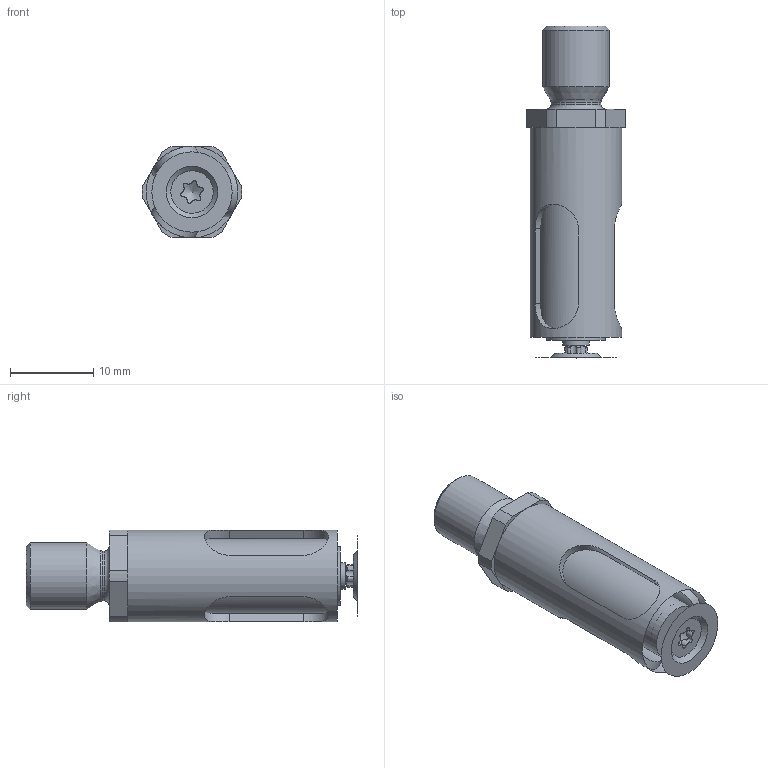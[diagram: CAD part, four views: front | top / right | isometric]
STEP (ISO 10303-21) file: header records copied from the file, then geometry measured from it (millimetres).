
FILE_DESCRIPTION(/* description */ (''),/* implementation_level */ '2;1');
FILE_NAME(/* name */ '\\dc01\daten\CAD\Standard\Daten\3D-Datenbank\GI\GIS\4 - 3D-CAD-Daten GIS 004-020\G-GIS011\G-GIS011_Rev.1.02.stp',/* time_stamp */ '2022-11-29T15:56:04+01:00',/* author */ ('ysplieth'),/* organization */ (''),/* preprocessor_version */ 'ST-DEVELOPER v17',/* originating_system */ 'Autodesk Inventor 2018',/* authorisation */ '');
FILE_SCHEMA (('AUTOMOTIVE_DESIGN { 1 0 10303 214 3 1 1 }'));
Length unit declared in the file: millimetre
Products named in the file (1): Bauteil13
Bounding box: 11.99 x 39.9 x 11 mm (x, y, z)
Volume: 2526.7 mm3; surface area: 3221 mm2
Topology: 1 solids, 3 shells, 84 faces, 232 edges, 158 vertices
Faces by surface type: cylinder 41, plane 28, cone 12, torus 3
Full cylindrical faces by diameter (mm): 2.459 x3, 3.2 x1, 4 x2, 4.134 x1, 6 x1, 6.8 x1, 7 x1, 8 x1, 8.9 x1, 9 x1, 11 x1
Entity records: 3326 total; most frequent: CARTESIAN_POINT 1021, DIRECTION 459, ORIENTED_EDGE 458, EDGE_CURVE 229, AXIS2_PLACEMENT_3D 182, VERTEX_POINT 158, EDGE_LOOP 97, CIRCLE 97
